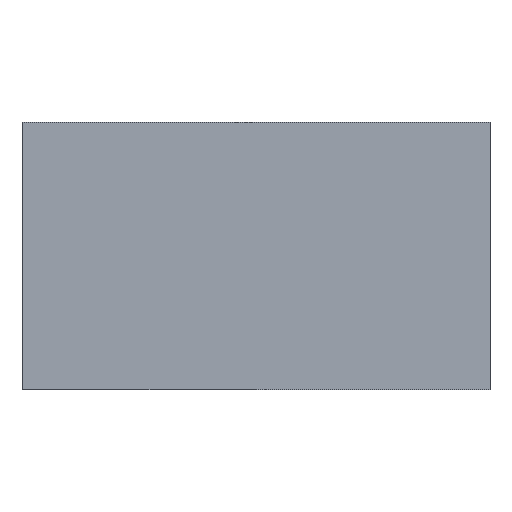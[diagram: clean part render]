
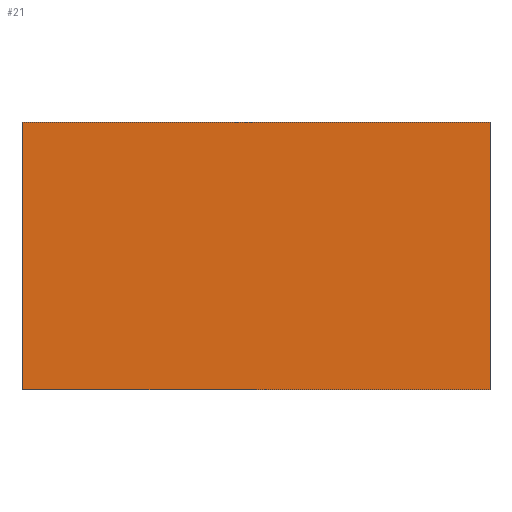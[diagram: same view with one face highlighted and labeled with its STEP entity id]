
A CAD part, top view. The second image highlights one B-rep face of the part: STEP entity #21.
In plain terms, the highlighted planar face has unit normal (0, 0, 1).
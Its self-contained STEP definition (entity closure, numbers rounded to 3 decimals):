
#2 = VERTEX_POINT ( 'NONE', #111 ) ;
#4 = DIRECTION ( 'NONE',  ( 1., 0., 0. ) ) ;
#5 = EDGE_CURVE ( 'NONE', #2, #74, #157, .T. ) ;
#7 = FACE_OUTER_BOUND ( 'NONE', #137, .T. ) ;
#21 = ADVANCED_FACE ( 'NONE', ( #7 ), #127, .T. ) ;
#26 = VECTOR ( 'NONE', #4, 1000. ) ;
#28 = EDGE_CURVE ( 'NONE', #74, #198, #99, .T. ) ;
#30 = CARTESIAN_POINT ( 'NONE',  ( -952.5, 543.75, 18. ) ) ;
#41 = DIRECTION ( 'NONE',  ( 0., 0., 1. ) ) ;
#56 = CARTESIAN_POINT ( 'NONE',  ( 0., 0., 18. ) ) ;
#60 = LINE ( 'NONE', #150, #176 ) ;
#74 = VERTEX_POINT ( 'NONE', #97 ) ;
#77 = DIRECTION ( 'NONE',  ( 0., -1., 0. ) ) ;
#83 = AXIS2_PLACEMENT_3D ( 'NONE', #56, #41, #112 ) ;
#97 = CARTESIAN_POINT ( 'NONE',  ( 952.5, -543.75, 18. ) ) ;
#99 = LINE ( 'NONE', #144, #171 ) ;
#108 = VERTEX_POINT ( 'NONE', #122 ) ;
#111 = CARTESIAN_POINT ( 'NONE',  ( -952.5, -543.75, 18. ) ) ;
#112 = DIRECTION ( 'NONE',  ( 1., 0., 0. ) ) ;
#115 = CARTESIAN_POINT ( 'NONE',  ( -952.5, -543.75, 18. ) ) ;
#120 = VECTOR ( 'NONE', #77, 1000. ) ;
#122 = CARTESIAN_POINT ( 'NONE',  ( -952.5, 543.75, 18. ) ) ;
#127 = PLANE ( 'NONE',  #83 ) ;
#134 = CARTESIAN_POINT ( 'NONE',  ( 952.5, 543.75, 18. ) ) ;
#137 = EDGE_LOOP ( 'NONE', ( #190, #166, #173, #181 ) ) ;
#144 = CARTESIAN_POINT ( 'NONE',  ( 952.5, 543.75, 18. ) ) ;
#150 = CARTESIAN_POINT ( 'NONE',  ( -952.5, 543.75, 18. ) ) ;
#157 = LINE ( 'NONE', #115, #26 ) ;
#161 = LINE ( 'NONE', #30, #120 ) ;
#166 = ORIENTED_EDGE ( 'NONE', *, *, #5, .T. ) ;
#171 = VECTOR ( 'NONE', #189, 1000. ) ;
#173 = ORIENTED_EDGE ( 'NONE', *, *, #28, .T. ) ;
#176 = VECTOR ( 'NONE', #183, 1000. ) ;
#179 = EDGE_CURVE ( 'NONE', #108, #2, #161, .T. ) ;
#181 = ORIENTED_EDGE ( 'NONE', *, *, #188, .T. ) ;
#183 = DIRECTION ( 'NONE',  ( -1., 0., 0. ) ) ;
#188 = EDGE_CURVE ( 'NONE', #198, #108, #60, .T. ) ;
#189 = DIRECTION ( 'NONE',  ( 0., 1., 0. ) ) ;
#190 = ORIENTED_EDGE ( 'NONE', *, *, #179, .T. ) ;
#198 = VERTEX_POINT ( 'NONE', #134 ) ;
